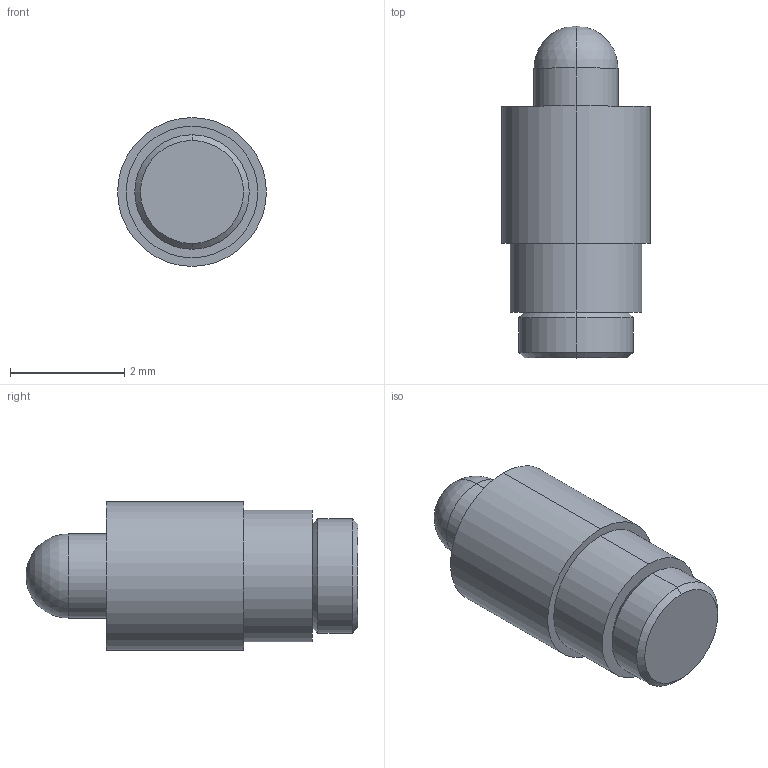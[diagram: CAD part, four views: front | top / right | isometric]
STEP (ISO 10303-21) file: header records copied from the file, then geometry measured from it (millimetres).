
FILE_DESCRIPTION((''),'2;1');
FILE_NAME('PRT0003','2023-05-26T15:13:12',('USER'),(''),'CREO PARAMETRIC BY PTC INC, 2020154','CREO PARAMETRIC BY PTC INC, 2020154','');
FILE_SCHEMA(('CONFIG_CONTROL_DESIGN'));
Length unit declared in the file: millimetre
Products named in the file (1): PRT0003
Bounding box: 2.6 x 5.8 x 2.6 mm (x, y, z)
Volume: 22.1 mm3; surface area: 49.1 mm2
Topology: 1 solids, 1 shells, 18 faces, 36 edges, 21 vertices
Faces by surface type: cylinder 8, plane 4, cone 4, sphere 2
Entity records: 498 total; most frequent: DIRECTION 92, CARTESIAN_POINT 73, ORIENTED_EDGE 68, AXIS2_PLACEMENT_3D 40, EDGE_CURVE 34, CIRCLE 22, VERTEX_POINT 21, EDGE_LOOP 21
